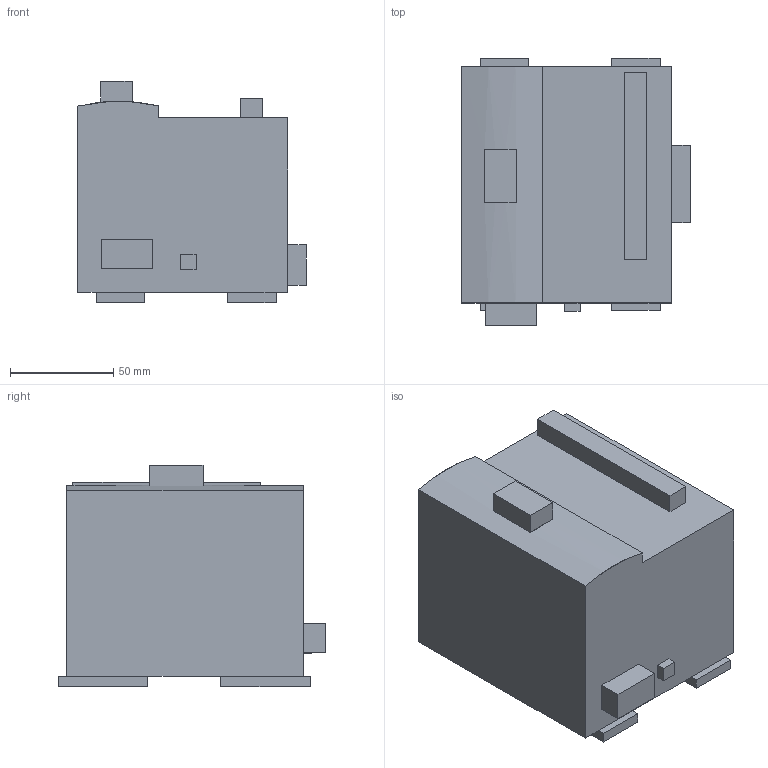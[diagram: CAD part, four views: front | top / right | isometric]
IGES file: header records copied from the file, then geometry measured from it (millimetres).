
Start section: SolidWorks IGES file using analytic representation for surfaces
Global section: file name: Q:\GROUPS\BR_SC_JGS_WAU_DESENVOLVIMENTO_PRODUTOS\Arquivos Fontes\Desenvolvimento Mecanico\Arquivos Site WEG\PLC500\PLC500.IGS; native system: SolidWorks 2018; preprocessor: SolidWorks 2018; author: emersont; date: 220520.130800; units: millimetre
Bounding box: 110.6 x 129.54 x 107.2 mm (x, y, z)
Surface area: 69775.8 mm2 (no closed solid volume)
Topology: 0 solids, 0 shells, 57 faces, 292 edges, 292 vertices
Faces by surface type: bspline 56, revolution 1
